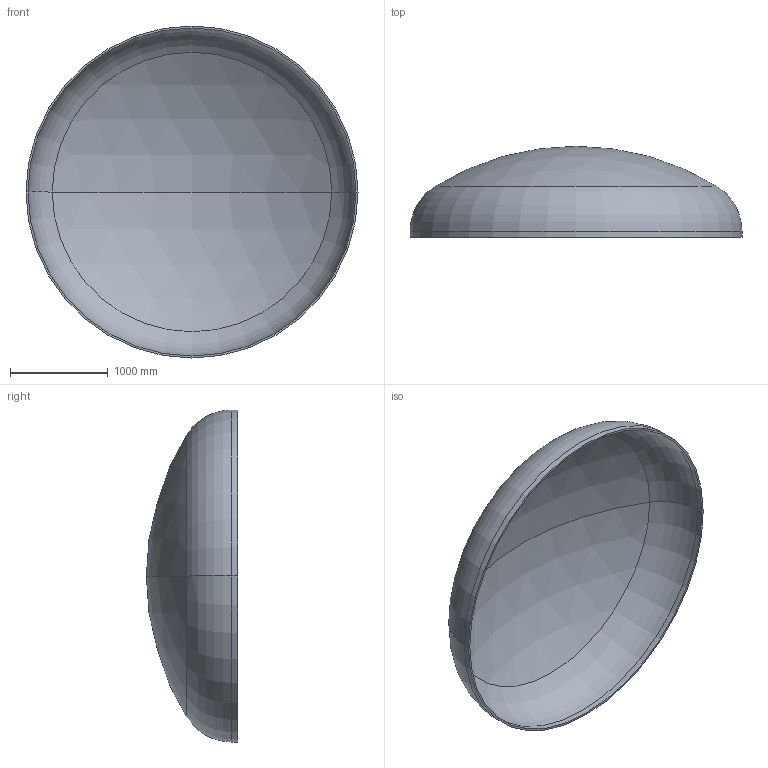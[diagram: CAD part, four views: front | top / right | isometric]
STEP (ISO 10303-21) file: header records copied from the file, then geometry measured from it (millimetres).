
FILE_DESCRIPTION (( 'STEP AP203' ), '1' );
FILE_NAME ('DIN 28013 Korbbogenform_-_Boden DIN 28013 - 3400 x 60 - I - s=20.step', '2016-07-01T19:16:13', ( '' ), ( '' ), 'SwSTEP 2.0', 'SolidWorks 2013', '' );
FILE_SCHEMA (( 'CONFIG_CONTROL_DESIGN' ));
Length unit declared in the file: millimetre
Products named in the file (1): DIN 28013 Korbbogenform_-_Boden DIN 28013 - 3400 x 60 - I - s=20
Bounding box: 3400 x 933.45 x 3400 mm (x, y, z)
Volume: 262421443.6 mm3; surface area: 26455343.5 mm2
Topology: 1 solids, 1 shells, 13 faces, 24 edges, 14 vertices
Faces by surface type: torus 4, cylinder 4, sphere 4, plane 1
Entity records: 407 total; most frequent: DIRECTION 72, CARTESIAN_POINT 52, ORIENTED_EDGE 48, AXIS2_PLACEMENT_3D 34, EDGE_CURVE 24, CIRCLE 20, EDGE_LOOP 14, VERTEX_POINT 14
